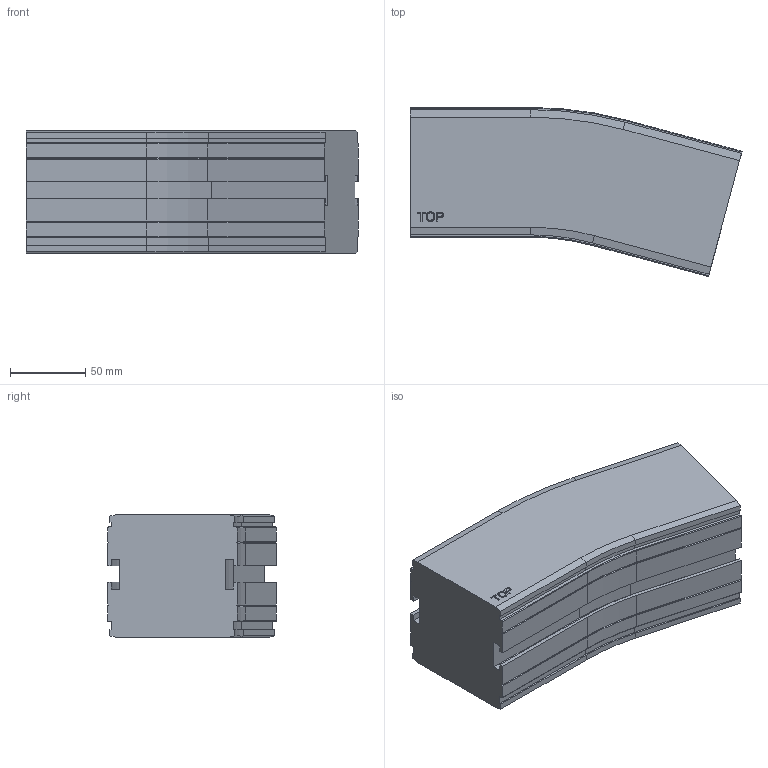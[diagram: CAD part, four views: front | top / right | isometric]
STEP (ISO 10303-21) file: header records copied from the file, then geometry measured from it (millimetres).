
FILE_DESCRIPTION((''),'2;1');
FILE_NAME('C:\Vault Klient\Projekt\Koncept konstruktion\Serie 830 Balk\830-5130.stp','2009-11-27T08:34:22',('Mathias'),(''),'Autodesk Inventor 2010','Autodesk Inventor 2010','');
FILE_SCHEMA(('AUTOMOTIVE_DESIGN { 1 0 10303 214 1 1 1 1 }'));
Length unit declared in the file: millimetre
Products named in the file (1): 830-5130
Bounding box: 220.17 x 112.06 x 81.5 mm (x, y, z)
Volume: 1411528.8 mm3; surface area: 100071.4 mm2
Topology: 1 solids, 1 shells, 169 faces, 446 edges, 284 vertices
Faces by surface type: plane 109, cylinder 30, bspline 14, cone 12, torus 4
Entity records: 5295 total; most frequent: CARTESIAN_POINT 1094, ORIENTED_EDGE 892, DIRECTION 802, EDGE_CURVE 446, VECTOR 346, LINE 346, VERTEX_POINT 284, AXIS2_PLACEMENT_3D 228
